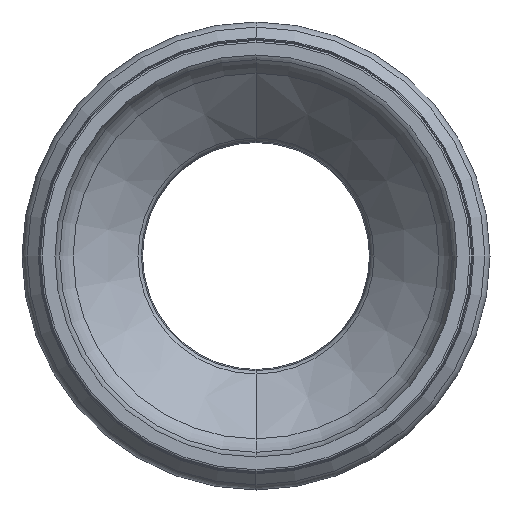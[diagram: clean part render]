
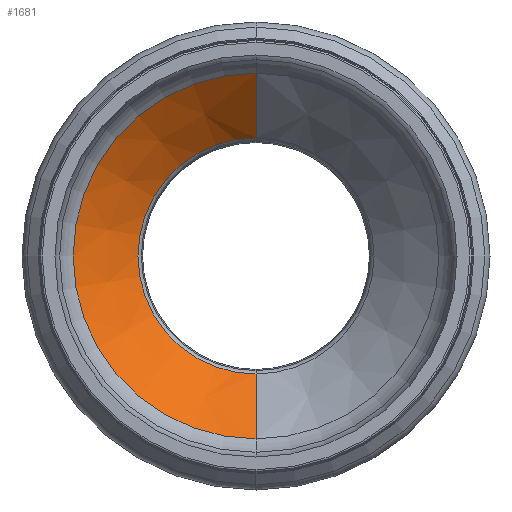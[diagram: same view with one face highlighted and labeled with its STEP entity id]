
A CAD part, left-side view. The second image highlights one B-rep face of the part: STEP entity #1681.
In plain terms, the highlighted conical face has half-angle 45.528 degrees and reference radius 29.88 mm.
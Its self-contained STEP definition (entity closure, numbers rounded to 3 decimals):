
#715=CARTESIAN_POINT('',(58.696,0.,0.));
#716=DIRECTION('',(1.,0.,0.));
#717=DIRECTION('',(0.,0.,-1.));
#718=AXIS2_PLACEMENT_3D('',#715,#716,#717);
#723=CARTESIAN_POINT('',(71.346,0.,0.));
#724=DIRECTION('',(-1.,0.,0.));
#725=DIRECTION('',(0.,0.,1.));
#726=AXIS2_PLACEMENT_3D('',#723,#724,#725);
#755=DIRECTION('',(-0.701,0.,0.714));
#756=VECTOR('',#755,18.056);
#757=CARTESIAN_POINT('',(71.346,0.,23.438));
#758=LINE('',#757,#756);
#762=DIRECTION('',(-0.701,0.,-0.714));
#763=VECTOR('',#762,18.056);
#764=CARTESIAN_POINT('',(71.346,0.,-23.438));
#765=LINE('',#764,#763);
#995=CARTESIAN_POINT('',(58.696,0.,-36.322));
#997=VERTEX_POINT('',#995);
#1001=CARTESIAN_POINT('',(58.696,0.,36.322));
#1002=VERTEX_POINT('',#1001);
#1003=CARTESIAN_POINT('',(71.346,0.,-23.438));
#1004=VERTEX_POINT('',#1003);
#1005=CARTESIAN_POINT('',(71.346,0.,23.438));
#1006=VERTEX_POINT('',#1005);
#1667=CARTESIAN_POINT('',(65.021,0.,0.));
#1668=DIRECTION('',(-1.,0.,0.));
#1669=DIRECTION('',(0.,0.,1.));
#1670=AXIS2_PLACEMENT_3D('',#1667,#1668,#1669);
#1671=CONICAL_SURFACE('',#1670,29.88,45.528);
#1673=ORIENTED_EDGE('',*,*,#1672,.T.);
#1675=ORIENTED_EDGE('',*,*,#1674,.T.);
#1676=ORIENTED_EDGE('',*,*,#1657,.T.);
#1678=ORIENTED_EDGE('',*,*,#1677,.F.);
#1679=EDGE_LOOP('',(#1673,#1675,#1676,#1678));
#1680=FACE_OUTER_BOUND('',#1679,.F.);
#719=CIRCLE('',#718,36.322);
#727=CIRCLE('',#726,23.438);
#1657=EDGE_CURVE('',#997,#1002,#719,.T.);
#1672=EDGE_CURVE('',#1006,#1004,#727,.T.);
#1674=EDGE_CURVE('',#1004,#997,#765,.T.);
#1677=EDGE_CURVE('',#1006,#1002,#758,.T.);
#1681=ADVANCED_FACE('',(#1680),#1671,.F.);
